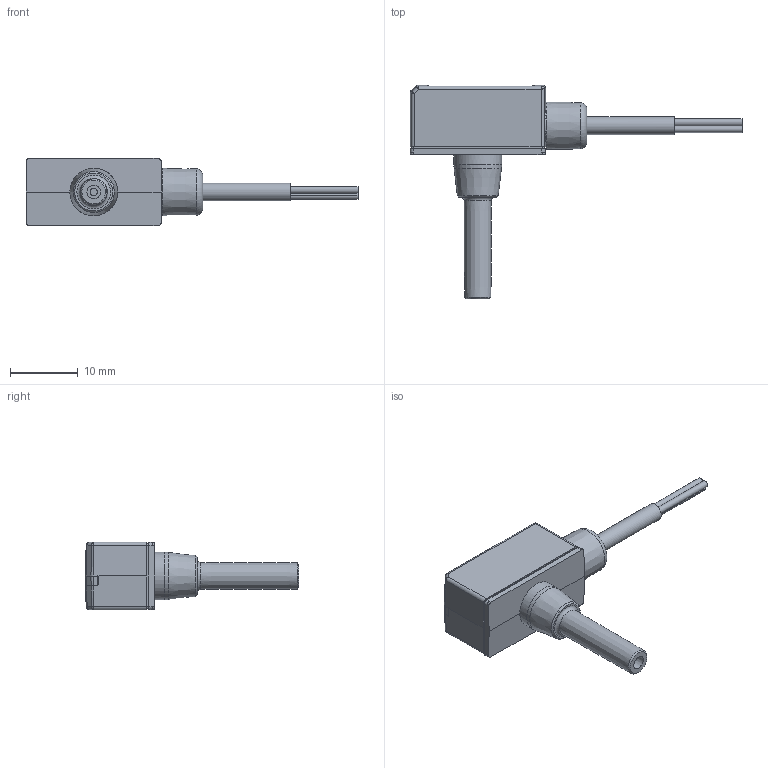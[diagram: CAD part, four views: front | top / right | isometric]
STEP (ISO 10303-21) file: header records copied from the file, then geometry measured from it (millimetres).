
FILE_DESCRIPTION(('STEP AP214'),'1');
FILE_NAME('82T4-AG.stp','2026-04-16T02:24:28',(' '),(' '),'Spatial InterOp 3D',' ',' ');
FILE_SCHEMA(('AUTOMOTIVE_DESIGN { 1 0 10303 214 1 1 1 1 }'));
Length unit declared in the file: millimetre
Products named in the file (4): MPS-※82T4-AG
Assembly tree (3 placements, depth 2):
  MPS-※82T4-AG
    MPS-※82T4-AG
    MPS-※82T4-AG
    MPS-※82T4-AG
Bounding box: 49 x 31.55 x 10 mm (x, y, z)
Volume: 344.2 mm3; surface area: 3622.9 mm2
Topology: 2 solids, 8 shells, 431 faces, 1186 edges, 778 vertices
Faces by surface type: plane 342, cylinder 52, cone 26, bspline 6, sphere 3, torus 2
Full cylindrical faces by diameter (mm): 1 x1, 1.1 x1, 2.6 x1, 2.7 x2, 3 x1, 4.6 x1, 4.7 x1, 5.05 x1, 7.05 x1
Entity records: 17672 total; most frequent: CARTESIAN_POINT 3463, ORIENTED_EDGE 2280, DIRECTION 2025, EDGE_CURVE 1151, LINE 917, VECTOR 917, VERTEX_POINT 768, AXIS2_PLACEMENT_3D 554
